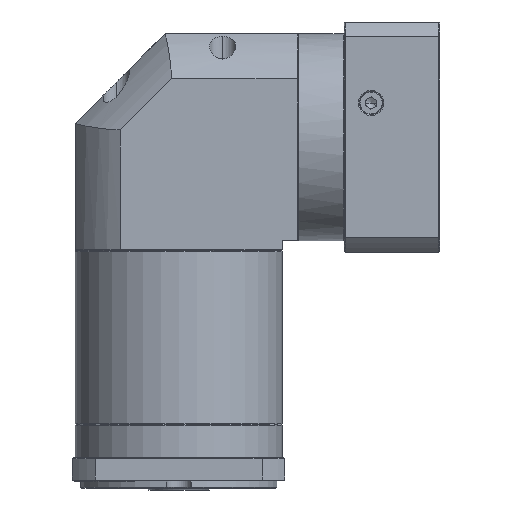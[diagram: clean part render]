
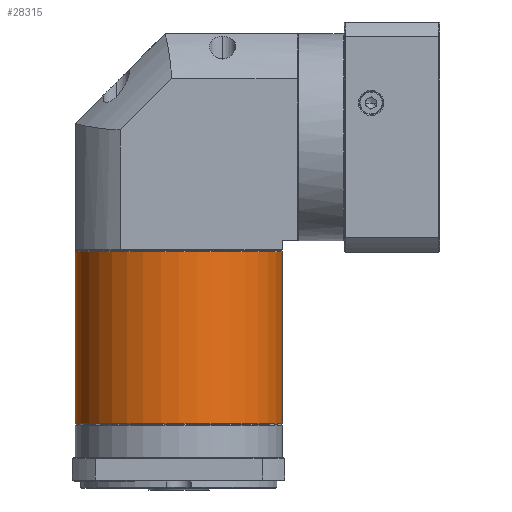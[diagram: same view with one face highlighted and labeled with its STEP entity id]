
A CAD part, front view. The second image highlights one B-rep face of the part: STEP entity #28315.
In plain terms, the highlighted cylindrical face has radius 57.5 mm (diameter 115 mm), a partial arc.
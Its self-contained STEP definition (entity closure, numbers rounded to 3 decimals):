
#115 = DIRECTION ( 'NONE',  ( 0., 0., -1. ) ) ;
#3998 = ORIENTED_EDGE ( 'NONE', *, *, #60730, .T. ) ;
#4557 = AXIS2_PLACEMENT_3D ( 'NONE', #87416, #47985, #117285 ) ;
#4769 = CYLINDRICAL_SURFACE ( 'NONE', #4557, 57.5 ) ;
#5204 = CARTESIAN_POINT ( 'NONE',  ( 44.835, 0.453, -51.363 ) ) ;
#5973 = CARTESIAN_POINT ( 'NONE',  ( 44.835, 57.953, -147.074 ) ) ;
#12042 = CARTESIAN_POINT ( 'NONE',  ( -12.665, 57.953, -51.363 ) ) ;
#15277 = VERTEX_POINT ( 'NONE', #5204 ) ;
#18585 = AXIS2_PLACEMENT_3D ( 'NONE', #100233, #120169, #71656 ) ;
#20299 = FACE_OUTER_BOUND ( 'NONE', #101892, .T. ) ;
#25373 = CIRCLE ( 'NONE', #53275, 57.5 ) ;
#28279 = LINE ( 'NONE', #112529, #63980 ) ;
#28315 = ADVANCED_FACE ( 'NONE', ( #20299 ), #4769, .T. ) ;
#28711 = ORIENTED_EDGE ( 'NONE', *, *, #52585, .T. ) ;
#33742 = AXIS2_PLACEMENT_3D ( 'NONE', #5973, #64485, #124617 ) ;
#39060 = CARTESIAN_POINT ( 'NONE',  ( 102.335, 57.953, -51.363 ) ) ;
#40893 = VERTEX_POINT ( 'NONE', #12042 ) ;
#42264 = CARTESIAN_POINT ( 'NONE',  ( -12.665, 57.953, -147.074 ) ) ;
#43800 = ORIENTED_EDGE ( 'NONE', *, *, #64117, .F. ) ;
#47985 = DIRECTION ( 'NONE',  ( 0., 0., -1. ) ) ;
#48437 = VERTEX_POINT ( 'NONE', #120400 ) ;
#52585 = EDGE_CURVE ( 'NONE', #15277, #40893, #25373, .T. ) ;
#53275 = AXIS2_PLACEMENT_3D ( 'NONE', #108494, #115, #78619 ) ;
#56589 = VERTEX_POINT ( 'NONE', #42264 ) ;
#57452 = VERTEX_POINT ( 'NONE', #39060 ) ;
#60730 = EDGE_CURVE ( 'NONE', #56589, #48437, #68096, .T. ) ;
#63980 = VECTOR ( 'NONE', #93807, 1000. ) ;
#64117 = EDGE_CURVE ( 'NONE', #57452, #48437, #28279, .T. ) ;
#64485 = DIRECTION ( 'NONE',  ( 0., 0., 1. ) ) ;
#68096 = CIRCLE ( 'NONE', #33742, 57.5 ) ;
#71614 = CIRCLE ( 'NONE', #18585, 57.5 ) ;
#71656 = DIRECTION ( 'NONE',  ( -1., 0., 0. ) ) ;
#74789 = LINE ( 'NONE', #82426, #110448 ) ;
#78619 = DIRECTION ( 'NONE',  ( -1., 0., 0. ) ) ;
#81125 = DIRECTION ( 'NONE',  ( 0., 0., -1. ) ) ;
#82426 = CARTESIAN_POINT ( 'NONE',  ( -12.665, 57.953, -50.863 ) ) ;
#87416 = CARTESIAN_POINT ( 'NONE',  ( 44.835, 57.953, -50.863 ) ) ;
#93506 = EDGE_CURVE ( 'NONE', #40893, #56589, #74789, .T. ) ;
#93754 = ORIENTED_EDGE ( 'NONE', *, *, #93506, .T. ) ;
#93807 = DIRECTION ( 'NONE',  ( 0., 0., -1. ) ) ;
#100233 = CARTESIAN_POINT ( 'NONE',  ( 44.835, 57.953, -51.363 ) ) ;
#101892 = EDGE_LOOP ( 'NONE', ( #43800, #114447, #28711, #93754, #3998 ) ) ;
#105678 = EDGE_CURVE ( 'NONE', #57452, #15277, #71614, .T. ) ;
#108494 = CARTESIAN_POINT ( 'NONE',  ( 44.835, 57.953, -51.363 ) ) ;
#110448 = VECTOR ( 'NONE', #81125, 1000. ) ;
#112529 = CARTESIAN_POINT ( 'NONE',  ( 102.335, 57.953, -50.863 ) ) ;
#114447 = ORIENTED_EDGE ( 'NONE', *, *, #105678, .T. ) ;
#117285 = DIRECTION ( 'NONE',  ( -1., 0., 0. ) ) ;
#120169 = DIRECTION ( 'NONE',  ( 0., 0., -1. ) ) ;
#120400 = CARTESIAN_POINT ( 'NONE',  ( 102.335, 57.953, -147.074 ) ) ;
#124617 = DIRECTION ( 'NONE',  ( -1., 0., 0. ) ) ;
